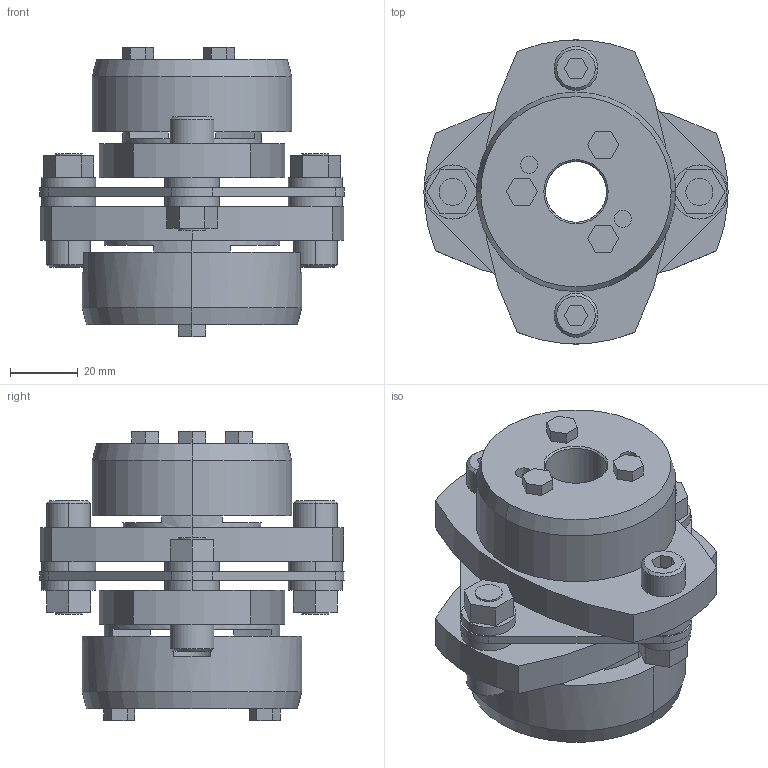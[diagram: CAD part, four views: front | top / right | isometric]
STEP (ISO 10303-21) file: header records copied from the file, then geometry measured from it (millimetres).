
FILE_DESCRIPTION((''),'2;1');
FILE_NAME('LCS-90T7-18×28.stp','2015-11-01T20:16:45',(''),(''),'AutoCAD STEP 2000i','AutoCAD 2000i',', , ');
FILE_SCHEMA(('CONFIG_CONTROL_DESIGN'));
Length unit declared in the file: millimetre
Products named in the file (9): LCS-90T7-19×30; 忣兜1; LC90T7-T030; LC90T7-T025; LC90T7-T019-1; LC90T7-T019; LC90-B019-1; LC90-B019; LCS90-ITA
Assembly tree (8 placements, depth 2):
  LCS-90T7-19×30
    忣兜1
    LC90T7-T030
    LC90T7-T025
    LC90T7-T019-1
    LC90T7-T019
    LC90-B019-1
    LC90-B019
    LCS90-ITA
Bounding box: 90 x 89.94 x 85.5 mm (x, y, z)
Volume: 212081.4 mm3; surface area: 53434.2 mm2
Topology: 1 solids, 1 shells, 229 faces, 562 edges, 368 vertices
Faces by surface type: plane 127, cylinder 82, cone 20
Entity records: 7023 total; most frequent: DIRECTION 1242, CARTESIAN_POINT 1168, ORIENTED_EDGE 1124, EDGE_CURVE 562, AXIS2_PLACEMENT_3D 442, VERTEX_POINT 368, VECTOR 358, LINE 358
